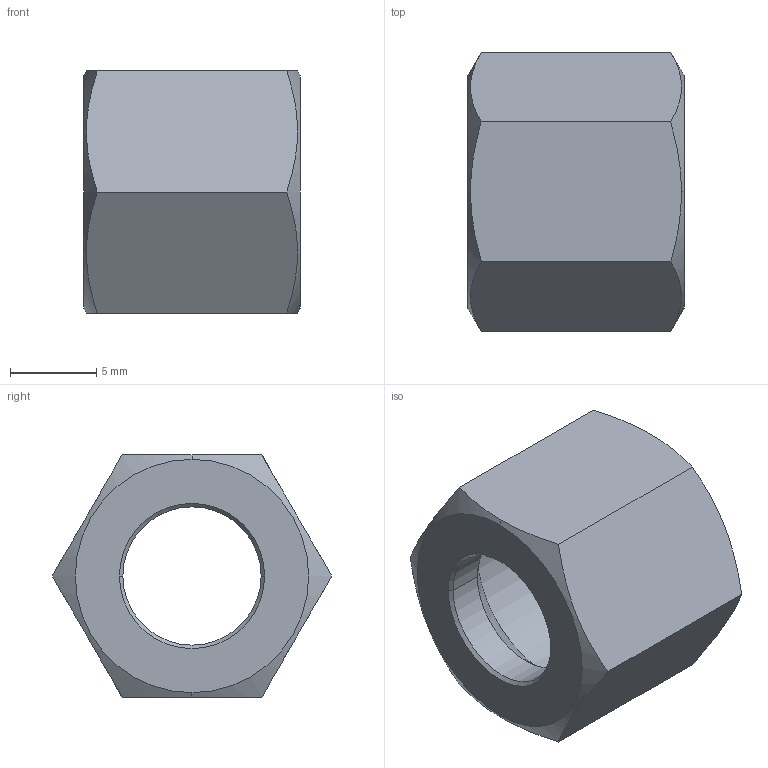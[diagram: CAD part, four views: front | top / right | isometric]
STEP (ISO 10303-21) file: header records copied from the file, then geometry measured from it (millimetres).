
FILE_DESCRIPTION((''),'2;1');
FILE_NAME('100203.stp','2006-03-06T15:11:57',('Dario Falcomer'),('CAST S.p.A.'),'AutoCAD STEP 2000i','AutoCAD 2000i',', , ');
FILE_SCHEMA(('CONFIG_CONTROL_DESIGN'));
Length unit declared in the file: millimetre
Products named in the file (2): 100203.0; CHIAVE_DADI#0
Assembly tree (1 placements, depth 2):
  100203.0
    CHIAVE_DADI#0
Bounding box: 12.5 x 16.17 x 14 mm (x, y, z)
Volume: 1029.8 mm3; surface area: 1178 mm2
Topology: 1 solids, 1 shells, 22 faces, 52 edges, 32 vertices
Faces by surface type: cone 10, plane 8, cylinder 4
Entity records: 725 total; most frequent: CARTESIAN_POINT 140, ORIENTED_EDGE 104, DIRECTION 100, EDGE_CURVE 52, AXIS2_PLACEMENT_3D 40, VERTEX_POINT 32, EDGE_LOOP 24, FACE_OUTER_BOUND 22
